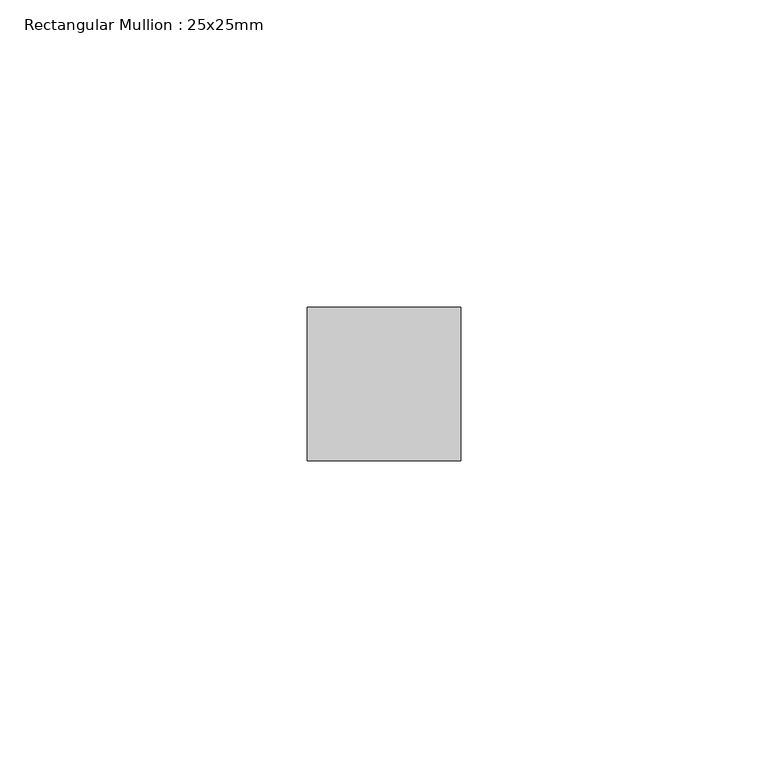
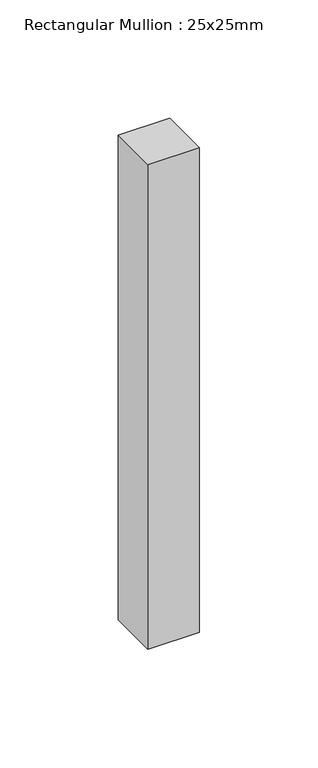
"""IFC4 building model written with IfcOpenShell, lengths in millimetres: member geometry, Rectangular Mullion : 25x25mm."""

from ifc_helpers import new_model, si_unit, frame, origin, place, context, project, spatial, polyline, outline, extrude, source, transform, mapped, element, save


def rectangular_mullion_25x25mm_dd205cdc(model_context):
    return source(origin(), model_context, "Body", "SweptSolid", [
        extrude(outline(polyline([(0.0, 0.5), (0.0, -24.5), (-25.0, -24.5), (-25.0, 0.5), (0.0, 0.5)])), frame((0.0, 0.0, -250.0), z_axis=(0.0, 0.0, 1.0), x_axis=(1.0, 0.0, 0.0)), (0.0, 0.0, 1.0), 250.0),
    ])


if __name__ == "__main__":
    model = new_model("IFC4")
    model_context = context("Model", 3, world=origin())
    ifc_project = project(units=[si_unit("LENGTHUNIT", "METRE", prefix="MILLI")], contexts=[model_context])
    site = spatial("IfcSite", under=ifc_project)
    building = spatial("IfcBuilding", under=site)
    placement = place(None, origin())
    rectangular_mullion_25x25mm_shape = rectangular_mullion_25x25mm_dd205cdc(model_context)
    element("IfcMember", 1, ObjectType="Rectangular Mullion : 25x25mm", at=placement, inside=building, context=model_context, shape_type="MappedRepresentation", body=[
        mapped(rectangular_mullion_25x25mm_shape, transform((0.0, 0.0, 0.0), x_axis=(1.0, 0.0, 0.0), y_axis=(0.0, 1.0, 0.0), z_axis=(0.0, 0.0, 1.0))),
    ])
    save(model, "model.ifc")
